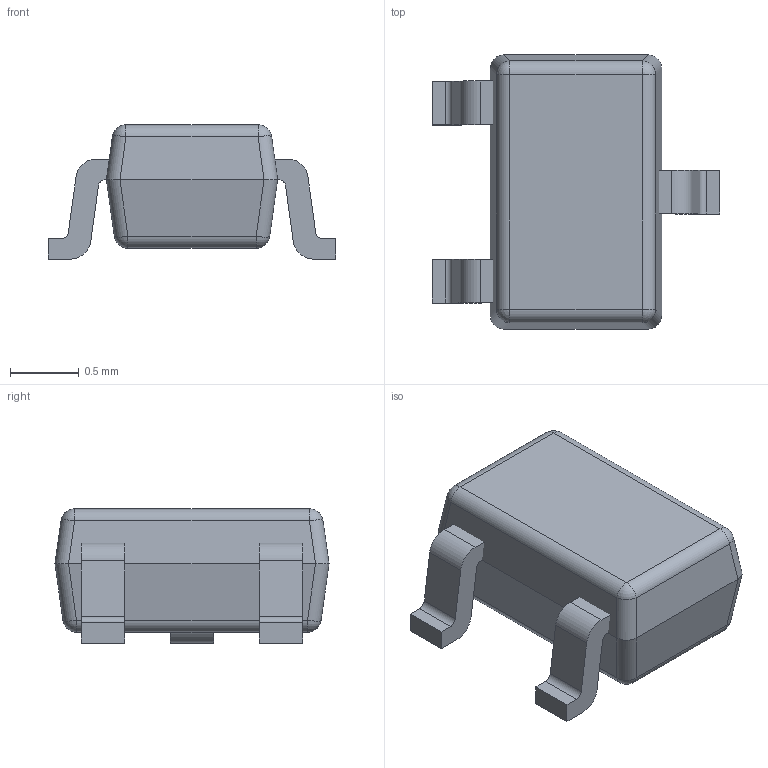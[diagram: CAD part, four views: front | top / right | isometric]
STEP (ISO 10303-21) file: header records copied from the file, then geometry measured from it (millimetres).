
FILE_DESCRIPTION(/* description */ ('Unknown'),/* implementation_level */ '2;1');
FILE_NAME(/* name */ 'SOT-323 (SC-70)',/* time_stamp */ '2024-04-19T09:48:27+08:00',/* author */ ('Unknown'),/* organization */ ('Unknown'),/* preprocessor_version */ 'ST-DEVELOPER v18.104',/* originating_system */ 'Solid Edge',/* authorisation */ 'Unknown');
FILE_SCHEMA (('AUTOMOTIVE_DESIGN {1 0 10303 214 3 1 1}'));
Length unit declared in the file: millimetre
Products named in the file (1): Part2
Bounding box: 2.1 x 2 x 0.98 mm (x, y, z)
Volume: 2.3 mm3; surface area: 13.9 mm2
Topology: 4 solids, 4 shells, 76 faces, 180 edges, 104 vertices
Faces by surface type: plane 40, cylinder 28, sphere 8
Entity records: 2138 total; most frequent: DIRECTION 378, CARTESIAN_POINT 353, ORIENTED_EDGE 344, EDGE_CURVE 172, AXIS2_PLACEMENT_3D 129, LINE 120, VECTOR 120, VERTEX_POINT 104
